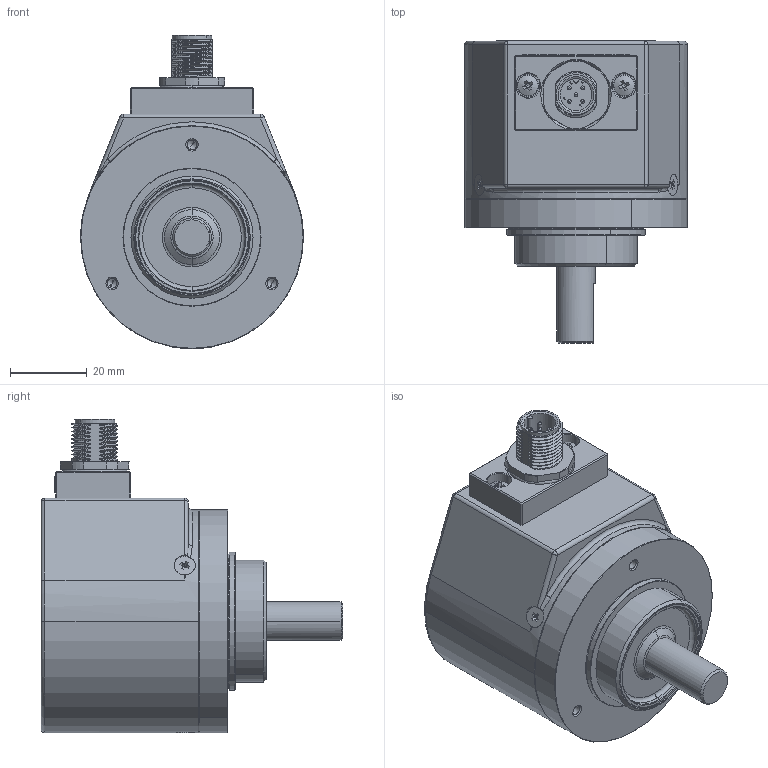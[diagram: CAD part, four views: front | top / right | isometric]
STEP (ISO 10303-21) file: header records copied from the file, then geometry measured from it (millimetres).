
FILE_DESCRIPTION (( 'STEP AP214' ), '1' );
FILE_NAME ('H11xKx.STEP', '2026-04-24T08:14:52', ( '' ), ( '' ), 'SwSTEP 2.0', 'SolidWorks 2019', '' );
FILE_SCHEMA (( 'AUTOMOTIVE_DESIGN' ));
Length unit declared in the file: millimetre
Products named in the file (1): H11xKx
Bounding box: 58 x 78.5 x 81.5 mm (x, y, z)
Volume: 74355.5 mm3; surface area: 37142.9 mm2
Topology: 1 solids, 11 shells, 833 faces, 2101 edges, 1293 vertices
Faces by surface type: plane 278, cylinder 239, cone 166, bspline 109, torus 27, sphere 14
Entity records: 39590 total; most frequent: CARTESIAN_POINT 11763, ORIENTED_EDGE 4070, DIRECTION 3594, EDGE_CURVE 2035, AXIS2_PLACEMENT_3D 1374, VERTEX_POINT 1283, EDGE_LOOP 904, VECTOR 846
